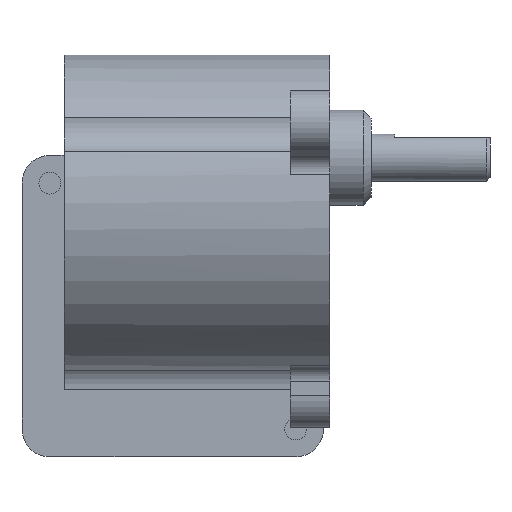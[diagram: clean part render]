
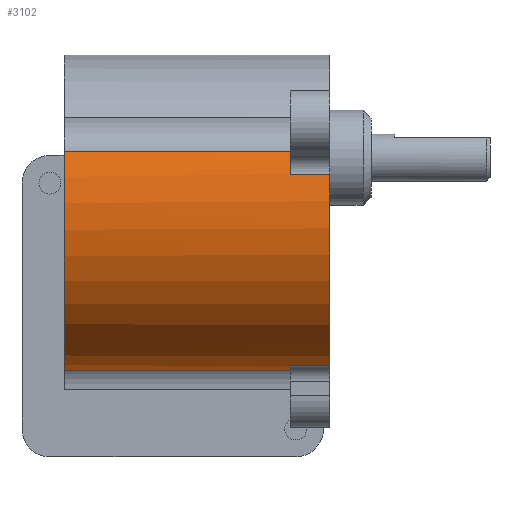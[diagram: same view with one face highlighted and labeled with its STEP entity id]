
A CAD part, left-side view. The second image highlights one B-rep face of the part: STEP entity #3102.
In plain terms, the highlighted cylindrical face has radius 20 mm (diameter 40 mm), a partial arc.
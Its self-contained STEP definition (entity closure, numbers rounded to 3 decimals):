
#192=CYLINDRICAL_SURFACE('',#3410,20.);
#268=FACE_OUTER_BOUND('',#462,.T.);
#462=EDGE_LOOP('',(#2162,#2163,#2164,#2165,#2166,#2167,#2168,#2169));
#704=CIRCLE('',#3411,20.);
#705=CIRCLE('',#3412,20.);
#706=CIRCLE('',#3413,20.);
#707=CIRCLE('',#3414,20.);
#867=LINE('',#4810,#1138);
#869=LINE('',#4818,#1140);
#870=LINE('',#4822,#1141);
#871=LINE('',#4826,#1142);
#1138=VECTOR('',#3806,10.);
#1140=VECTOR('',#3814,10.);
#1141=VECTOR('',#3817,10.);
#1142=VECTOR('',#3820,10.);
#1417=VERTEX_POINT('',#4807);
#1418=VERTEX_POINT('',#4809);
#1420=VERTEX_POINT('',#4815);
#1421=VERTEX_POINT('',#4817);
#1422=VERTEX_POINT('',#4819);
#1423=VERTEX_POINT('',#4821);
#1424=VERTEX_POINT('',#4823);
#1425=VERTEX_POINT('',#4825);
#1708=EDGE_CURVE('',#1417,#1418,#867,.T.);
#1711=EDGE_CURVE('',#1417,#1420,#704,.T.);
#1712=EDGE_CURVE('',#1420,#1421,#869,.T.);
#1713=EDGE_CURVE('',#1421,#1422,#705,.T.);
#1714=EDGE_CURVE('',#1422,#1423,#870,.T.);
#1715=EDGE_CURVE('',#1423,#1424,#706,.T.);
#1716=EDGE_CURVE('',#1425,#1424,#871,.T.);
#1717=EDGE_CURVE('',#1418,#1425,#707,.T.);
#2162=ORIENTED_EDGE('',*,*,#1708,.F.);
#2163=ORIENTED_EDGE('',*,*,#1711,.T.);
#2164=ORIENTED_EDGE('',*,*,#1712,.T.);
#2165=ORIENTED_EDGE('',*,*,#1713,.T.);
#2166=ORIENTED_EDGE('',*,*,#1714,.T.);
#2167=ORIENTED_EDGE('',*,*,#1715,.T.);
#2168=ORIENTED_EDGE('',*,*,#1716,.F.);
#2169=ORIENTED_EDGE('',*,*,#1717,.F.);
#3102=ADVANCED_FACE('',(#268),#192,.T.);
#3410=AXIS2_PLACEMENT_3D('',#4814,#3810,#3811);
#3411=AXIS2_PLACEMENT_3D('',#4816,#3812,#3813);
#3412=AXIS2_PLACEMENT_3D('',#4820,#3815,#3816);
#3413=AXIS2_PLACEMENT_3D('',#4824,#3818,#3819);
#3414=AXIS2_PLACEMENT_3D('',#4827,#3821,#3822);
#3806=DIRECTION('',(0.,-1.,0.));
#3810=DIRECTION('center_axis',(0.,1.,0.));
#3811=DIRECTION('ref_axis',(-0.866,0.,-0.5));
#3812=DIRECTION('center_axis',(0.,1.,0.));
#3813=DIRECTION('ref_axis',(1.,0.,0.));
#3814=DIRECTION('',(0.,1.,0.));
#3815=DIRECTION('center_axis',(0.,-1.,0.));
#3816=DIRECTION('ref_axis',(1.,0.,0.));
#3817=DIRECTION('',(0.,-1.,0.));
#3818=DIRECTION('center_axis',(0.,1.,0.));
#3819=DIRECTION('ref_axis',(1.,0.,0.));
#3820=DIRECTION('',(0.,1.,0.));
#3821=DIRECTION('center_axis',(0.,-1.,0.));
#3822=DIRECTION('ref_axis',(1.,0.,0.));
#4807=CARTESIAN_POINT('',(-19.391,5.,4.897));
#4809=CARTESIAN_POINT('',(-19.391,0.,4.897));
#4810=CARTESIAN_POINT('',(-19.391,0.,4.897));
#4814=CARTESIAN_POINT('Origin',(0.,0.,0.));
#4815=CARTESIAN_POINT('',(-18.42,5.,7.791));
#4816=CARTESIAN_POINT('Origin',(0.,5.,0.));
#4817=CARTESIAN_POINT('',(-18.42,33.5,7.791));
#4818=CARTESIAN_POINT('',(-18.42,33.5,7.791));
#4819=CARTESIAN_POINT('',(-2.462,33.5,-19.848));
#4820=CARTESIAN_POINT('Origin',(0.,33.5,0.));
#4821=CARTESIAN_POINT('',(-2.462,5.,-19.848));
#4822=CARTESIAN_POINT('',(-2.462,33.5,-19.848));
#4823=CARTESIAN_POINT('',(-5.455,5.,-19.242));
#4824=CARTESIAN_POINT('Origin',(0.,5.,0.));
#4825=CARTESIAN_POINT('',(-5.455,0.,-19.242));
#4826=CARTESIAN_POINT('',(-5.455,0.,-19.242));
#4827=CARTESIAN_POINT('Origin',(0.,0.,0.));
